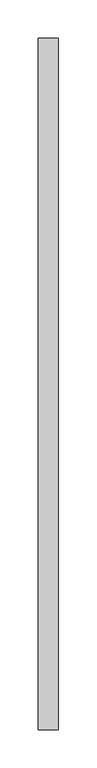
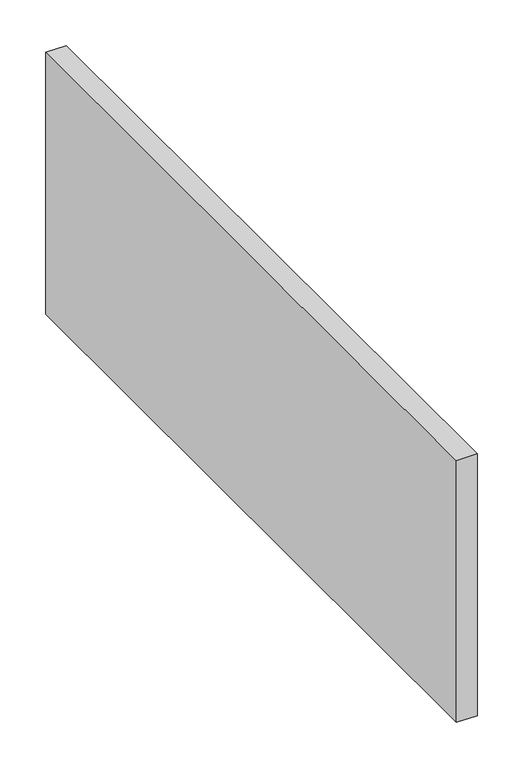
"""IFC4 building model written with IfcOpenShell, lengths in millimetres: duct fitting geometry, ADSK_ВрезкаВоздуховода_Прямоугольная : Стандарт."""

from ifc_helpers import new_model, si_unit, frame, origin, place, context, project, spatial, polyline, outline, extrude, source, transform, mapped, element, save


def duct_fitting_5a3266c1(model_context):
    return source(origin(), model_context, "Body", "SweptSolid", [
        extrude(outline(polyline([(-6.096, -450.0), (-6.096, 450.0), (20.0, 450.0), (20.0, -450.0), (-6.096, -450.0)])), frame((0.0, 0.0, -175.0), z_axis=(0.0, 0.0, 1.0), x_axis=(1.0, 0.0, 0.0)), (0.0, 0.0, 1.0), 350.0),
    ])


if __name__ == "__main__":
    model = new_model("IFC4")
    model_context = context("Model", 3, world=origin())
    ifc_project = project(units=[si_unit("LENGTHUNIT", "METRE", prefix="MILLI")], contexts=[model_context])
    site = spatial("IfcSite", under=ifc_project)
    building = spatial("IfcBuilding", under=site)
    placement = place(None, origin())
    duct_fitting_shape = duct_fitting_5a3266c1(model_context)
    element("IfcDuctFitting", 1, ObjectType="ADSK_ВрезкаВоздуховода_Прямоугольная : Стандарт", at=placement, inside=building, context=model_context, shape_type="MappedRepresentation", body=[
        mapped(duct_fitting_shape, transform((0.0, 0.0, 0.0), x_axis=(1.0, 0.0, 0.0), y_axis=(0.0, 1.0, 0.0), z_axis=(0.0, 0.0, 1.0))),
    ])
    save(model, "model.ifc")
